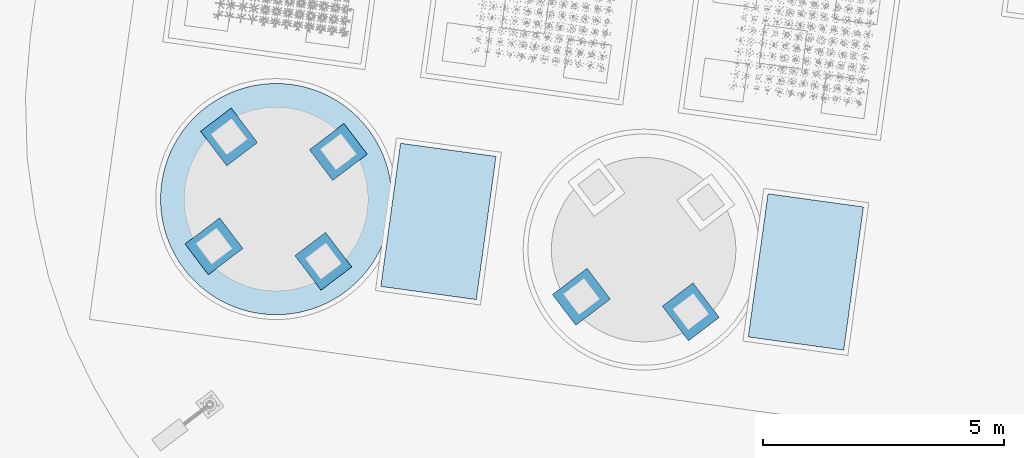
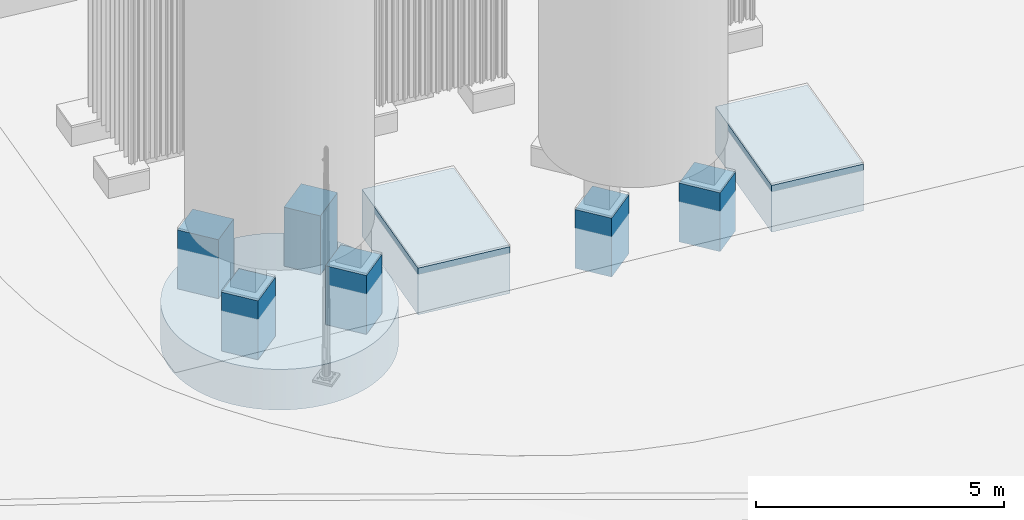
# Not in any storey, part 1 of 75: 9 footings.
"""IFC4 model written with IfcOpenShell, lengths in metres."""

from ifc_helpers import new_model, si_unit, direction, origin, origin_with_axes, place, context, subcontext, project, spatial, triangles, element, save


model = new_model("IFC4")

# Units and contexts
model_context = context("Model", 3, precision=1e-05, world=origin_with_axes(), true_north=direction((0.0, 1.0)))
body_context = subcontext(model_context, "Body", "Model", "MODEL_VIEW")
ifc_project = project(units=[si_unit("AREAUNIT", "SQUARE_METRE"), si_unit("VOLUMEUNIT", "CUBIC_METRE"), si_unit("LENGTHUNIT", "METRE")], contexts=[model_context])

# Site
site_placement = place(None, origin_with_axes())
site = spatial("IfcSite", under=ifc_project, at=site_placement, Name="Parcela industrial Jinhong")

# Footings
footing_1_placement = place(None, origin())
element("IfcFooting", 1, at=footing_1_placement, inside=site, Name="Cimentación del depósito SV1801A · cuerpo de hormigón", PredefinedType="PAD_FOOTING", context=body_context, shape_type="Tessellation", body=[
    triangles([(38.523362, 31.440213, -0.9), (38.669612, 31.804191, -0.9), (38.588997, 31.582892, -0.9), (38.711128, 31.955656, -0.9), (38.69161, 31.879584, -0.9), (38.64516, 31.729558, -0.9), (38.618278, 31.655766, -0.9), (38.319775, 31.104921, -0.9), (38.487079, 31.370561, -0.9), (38.407775, 31.235002, -0.9), (38.448536, 31.302133, -0.9), (38.36484, 31.169241, -0.9), (38.272631, 31.042109, -0.9), (38.223456, 30.980873, -0.9), (38.172304, 30.921279, -0.9), (38.11923, 30.863391, -0.9), (36.2063, 30.120098, -0.9), (37.827079, 30.601634, -0.9), (37.496191, 30.390963, -0.9), (37.949051, 30.700569, -0.9), (37.888875, 30.650103, -0.9), (37.698899, 30.510887, -0.9), (37.763732, 30.555211, -0.9), (37.63265, 30.468708, -0.9), (37.565057, 30.428719, -0.9), (37.426129, 30.35548, -0.9), (37.354941, 30.322309, -0.9), (37.282706, 30.291484, -0.9), (37.209502, 30.26304, -0.9), (37.135407, 30.237005, -0.9), (37.060499, 30.21341, -0.9), (36.984858, 30.192278, -0.9), (36.908568, 30.173632, -0.9), (36.67661, 30.132797, -0.9), (36.831708, 30.157492, -0.9), (36.754361, 30.143875, -0.9), (36.441766, 30.114895, -0.9), (36.598538, 30.124268, -0.9), (36.520229, 30.118299, -0.9), (36.363235, 30.114059, -0.9), (36.284717, 30.115795, -0.9), (36.050095, 30.136386, -0.9), (36.128064, 30.126964, -0.9), (35.895289, 30.162857, -0.9), (35.972475, 30.148355, -0.9), (35.303177, 30.367643, -0.9), (35.667155, 30.221392, -0.9), (35.445856, 30.302007, -0.9), (35.81862, 30.179876, -0.9), (35.742547, 30.199395, -0.9), (35.592522, 30.245845, -0.9), (35.51873, 30.272726, -0.9), (34.967885, 30.571229, -0.9), (35.233525, 30.403926, -0.9), (35.097966, 30.483229, -0.9), (35.165097, 30.442468, -0.9), (35.032205, 30.526164, -0.9), (34.905072, 30.618374, -0.9), (34.843837, 30.667548, -0.9), (34.784242, 30.7187, -0.9), (34.726355, 30.771774, -0.9), (33.983061, 32.684705, -0.9), (34.464597, 31.063925, -0.9), (34.253926, 31.394813, -0.9), (34.563532, 30.941953, -0.9), (34.513066, 31.00213, -0.9), (34.373851, 31.192106, -0.9), (34.418175, 31.127272, -0.9), (34.331672, 31.258354, -0.9), (34.291683, 31.325948, -0.9), (34.218444, 31.464876, -0.9), (34.185272, 31.536063, -0.9), (34.154448, 31.608298, -0.9), (34.126004, 31.681502, -0.9), (34.099969, 31.755598, -0.9), (34.076374, 31.830506, -0.9), (34.055241, 31.906146, -0.9), (34.036596, 31.982436, -0.9), (33.995761, 32.214394, -0.9), (34.020456, 32.059296, -0.9), (34.006839, 32.136643, -0.9), (33.977859, 32.449238, -0.9), (33.987232, 32.292466, -0.9), (33.981262, 32.370775, -0.9), (33.977023, 32.52777, -0.9), (33.978759, 32.606287, -0.9), (33.99935, 32.84091, -0.9), (33.989928, 32.76294, -0.9), (34.025821, 32.995715, -0.9), (34.011319, 32.918529, -0.9), (34.230606, 33.587827, -0.9), (34.084356, 33.223849, -0.9), (34.164971, 33.445148, -0.9), (34.04284, 33.072384, -0.9), (34.062358, 33.148457, -0.9), (34.108808, 33.298482, -0.9), (34.13569, 33.372275, -0.9), (34.434193, 33.92312, -0.9), (34.266889, 33.65748, -0.9), (34.346193, 33.793038, -0.9), (34.305432, 33.725908, -0.9), (34.389128, 33.858799, -0.9), (34.481337, 33.985932, -0.9), (34.530512, 34.047168, -0.9), (34.581664, 34.106762, -0.9), (34.634738, 34.16465, -0.9), (36.547668, 34.907943, -0.9), (34.926889, 34.426407, -0.9), (35.257777, 34.637078, -0.9), (34.804917, 34.327472, -0.9), (34.865093, 34.377938, -0.9), (35.05507, 34.517154, -0.9), (34.990236, 34.472829, -0.9), (35.121318, 34.559333, -0.9), (35.188911, 34.599322, -0.9), (35.32784, 34.672561, -0.9), (35.399027, 34.705732, -0.9), (35.471262, 34.736556, -0.9), (35.544466, 34.765001, -0.9), (35.618562, 34.791035, -0.9), (35.693469, 34.81463, -0.9), (35.76911, 34.835763, -0.9), (35.8454, 34.854409, -0.9), (36.077358, 34.895244, -0.9), (35.92226, 34.870548, -0.9), (35.999607, 34.884165, -0.9), (36.312202, 34.913146, -0.9), (36.15543, 34.903772, -0.9), (36.233739, 34.909742, -0.9), (36.390733, 34.913981, -0.9), (36.469251, 34.912246, -0.9), (36.703873, 34.891654, -0.9), (36.625904, 34.901077, -0.9), (36.858679, 34.865183, -0.9), (36.781493, 34.879686, -0.9), (37.450791, 34.660398, -0.9), (37.086813, 34.806648, -0.9), (37.308112, 34.726033, -0.9), (36.935348, 34.848164, -0.9), (37.011421, 34.828646, -0.9), (37.161446, 34.782196, -0.9), (37.235238, 34.755315, -0.9), (37.786083, 34.456812, -0.9), (37.520443, 34.624115, -0.9), (37.656002, 34.544811, -0.9), (37.588871, 34.585573, -0.9), (37.721763, 34.501876, -0.9), (37.848896, 34.409667, -0.9), (37.910131, 34.360492, -0.9), (37.969726, 34.309341, -0.9), (38.027613, 34.256266, -0.9), (38.770907, 32.343336, -0.9), (38.289371, 33.964115, -0.9), (38.500042, 33.633228, -0.9), (38.190436, 34.086087, -0.9), (38.240902, 34.025911, -0.9), (38.380118, 33.835935, -0.9), (38.335793, 33.900768, -0.9), (38.422296, 33.769686, -0.9), (38.462285, 33.702093, -0.9), (38.535524, 33.563165, -0.9), (38.568696, 33.491977, -0.9), (38.59952, 33.419743, -0.9), (38.627965, 33.346538, -0.9), (38.653999, 33.272443, -0.9), (38.677594, 33.197535, -0.9), (38.698727, 33.121895, -0.9), (38.717372, 33.045604, -0.9), (38.758207, 32.813647, -0.9), (38.733512, 32.968745, -0.9), (38.747129, 32.891397, -0.9), (38.77611, 32.578803, -0.9), (38.766736, 32.735574, -0.9), (38.772706, 32.657265, -0.9), (38.776945, 32.500271, -0.9), (38.775209, 32.421754, -0.9), (38.754618, 32.187131, -0.9), (38.764041, 32.2651, -0.9), (38.728147, 32.032326, -0.9), (38.742649, 32.109512, -0.9), (38.557347, 31.511016, -0.9), (38.06429, 30.80727, -0.9), (38.007543, 30.752976, -0.9), (35.37398, 30.333657, -0.9), (34.670234, 30.826714, -0.9), (34.61594, 30.883461, -0.9), (34.196621, 33.517024, -0.9), (34.689678, 34.220771, -0.9), (34.746425, 34.275064, -0.9), (37.379988, 34.694383, -0.9), (38.083734, 34.201326, -0.9), (38.138028, 34.14458, -0.9), (38.523362, 31.440213, 0.1), (38.669612, 31.804191, 0.1), (38.588997, 31.582892, 0.1), (38.711128, 31.955656, 0.1), (38.69161, 31.879584, 0.1), (38.64516, 31.729558, 0.1), (38.618278, 31.655766, 0.1), (38.319775, 31.104921, 0.1), (38.487079, 31.370561, 0.1), (38.407775, 31.235002, 0.1), (38.448536, 31.302133, 0.1), (38.36484, 31.169241, 0.1), (38.272631, 31.042109, 0.1), (38.223456, 30.980873, 0.1), (38.172304, 30.921279, 0.1), (38.11923, 30.863391, 0.1), (36.2063, 30.120098, 0.1), (37.827079, 30.601634, 0.1), (37.496191, 30.390963, 0.1), (37.949051, 30.700569, 0.1), (37.888875, 30.650103, 0.1), (37.698899, 30.510887, 0.1), (37.763732, 30.555211, 0.1), (37.63265, 30.468708, 0.1), (37.565057, 30.428719, 0.1), (37.426129, 30.35548, 0.1), (37.354941, 30.322309, 0.1), (37.282706, 30.291484, 0.1), (37.209502, 30.26304, 0.1), (37.135407, 30.237005, 0.1), (37.060499, 30.21341, 0.1), (36.984858, 30.192278, 0.1), (36.908568, 30.173632, 0.1), (36.67661, 30.132797, 0.1), (36.831708, 30.157492, 0.1), (36.754361, 30.143875, 0.1), (36.441766, 30.114895, 0.1), (36.598538, 30.124268, 0.1), (36.520229, 30.118299, 0.1), (36.363235, 30.114059, 0.1), (36.284717, 30.115795, 0.1), (36.050095, 30.136386, 0.1), (36.128064, 30.126964, 0.1), (35.895289, 30.162857, 0.1), (35.972475, 30.148355, 0.1), (35.303177, 30.367643, 0.1), (35.667155, 30.221392, 0.1), (35.445856, 30.302007, 0.1), (35.81862, 30.179876, 0.1), (35.742547, 30.199395, 0.1), (35.592522, 30.245845, 0.1), (35.51873, 30.272726, 0.1), (34.967885, 30.571229, 0.1), (35.233525, 30.403926, 0.1), (35.097966, 30.483229, 0.1), (35.165097, 30.442468, 0.1), (35.032205, 30.526164, 0.1), (34.905072, 30.618374, 0.1), (34.843837, 30.667548, 0.1), (34.784242, 30.7187, 0.1), (34.726355, 30.771774, 0.1), (33.983061, 32.684705, 0.1), (34.464597, 31.063925, 0.1), (34.253926, 31.394813, 0.1), (34.563532, 30.941953, 0.1), (34.513066, 31.00213, 0.1), (34.373851, 31.192106, 0.1), (34.418175, 31.127272, 0.1), (34.331672, 31.258354, 0.1), (34.291683, 31.325948, 0.1), (34.218444, 31.464876, 0.1), (34.185272, 31.536063, 0.1), (34.154448, 31.608298, 0.1), (34.126004, 31.681502, 0.1), (34.099969, 31.755598, 0.1), (34.076374, 31.830506, 0.1), (34.055241, 31.906146, 0.1), (34.036596, 31.982436, 0.1), (33.995761, 32.214394, 0.1), (34.020456, 32.059296, 0.1), (34.006839, 32.136643, 0.1), (33.977859, 32.449238, 0.1), (33.987232, 32.292466, 0.1), (33.981262, 32.370775, 0.1), (33.977023, 32.52777, 0.1), (33.978759, 32.606287, 0.1), (33.99935, 32.84091, 0.1), (33.989928, 32.76294, 0.1), (34.025821, 32.995715, 0.1), (34.011319, 32.918529, 0.1), (34.230606, 33.587827, 0.1), (34.084356, 33.223849, 0.1), (34.164971, 33.445148, 0.1), (34.04284, 33.072384, 0.1), (34.062358, 33.148457, 0.1), (34.108808, 33.298482, 0.1), (34.13569, 33.372275, 0.1), (34.434193, 33.92312, 0.1), (34.266889, 33.65748, 0.1), (34.346193, 33.793038, 0.1), (34.305432, 33.725908, 0.1), (34.389128, 33.858799, 0.1), (34.481337, 33.985932, 0.1), (34.530512, 34.047168, 0.1), (34.581664, 34.106762, 0.1), (34.634738, 34.16465, 0.1), (36.547668, 34.907943, 0.1), (34.926889, 34.426407, 0.1), (35.257777, 34.637078, 0.1), (34.804917, 34.327472, 0.1), (34.865093, 34.377938, 0.1), (35.05507, 34.517154, 0.1), (34.990236, 34.472829, 0.1), (35.121318, 34.559333, 0.1), (35.188911, 34.599322, 0.1), (35.32784, 34.672561, 0.1), (35.399027, 34.705732, 0.1), (35.471262, 34.736556, 0.1), (35.544466, 34.765001, 0.1), (35.618562, 34.791035, 0.1), (35.693469, 34.81463, 0.1), (35.76911, 34.835763, 0.1), (35.8454, 34.854409, 0.1), (36.077358, 34.895244, 0.1), (35.92226, 34.870548, 0.1), (35.999607, 34.884165, 0.1), (36.312202, 34.913146, 0.1), (36.15543, 34.903772, 0.1), (36.233739, 34.909742, 0.1), (36.390733, 34.913981, 0.1), (36.469251, 34.912246, 0.1), (36.703873, 34.891654, 0.1), (36.625904, 34.901077, 0.1), (36.858679, 34.865183, 0.1), (36.781493, 34.879686, 0.1), (37.450791, 34.660398, 0.1), (37.086813, 34.806648, 0.1), (37.308112, 34.726033, 0.1), (36.935348, 34.848164, 0.1), (37.011421, 34.828646, 0.1), (37.161446, 34.782196, 0.1), (37.235238, 34.755315, 0.1), (37.786083, 34.456812, 0.1), (37.520443, 34.624115, 0.1), (37.656002, 34.544811, 0.1), (37.588871, 34.585573, 0.1), (37.721763, 34.501876, 0.1), (37.848896, 34.409667, 0.1), (37.910131, 34.360492, 0.1), (37.969726, 34.309341, 0.1), (38.027613, 34.256266, 0.1), (38.770907, 32.343336, 0.1), (38.289371, 33.964115, 0.1), (38.500042, 33.633228, 0.1), (38.190436, 34.086087, 0.1), (38.240902, 34.025911, 0.1), (38.380118, 33.835935, 0.1), (38.335793, 33.900768, 0.1), (38.422296, 33.769686, 0.1), (38.462285, 33.702093, 0.1), (38.535524, 33.563165, 0.1), (38.568696, 33.491977, 0.1), (38.59952, 33.419743, 0.1), (38.627965, 33.346538, 0.1), (38.653999, 33.272443, 0.1), (38.677594, 33.197535, 0.1), (38.698727, 33.121895, 0.1), (38.717372, 33.045604, 0.1), (38.758207, 32.813647, 0.1), (38.733512, 32.968745, 0.1), (38.747129, 32.891397, 0.1), (38.77611, 32.578803, 0.1), (38.766736, 32.735574, 0.1), (38.772706, 32.657265, 0.1), (38.776945, 32.500271, 0.1), (38.775209, 32.421754, 0.1), (38.754618, 32.187131, 0.1), (38.764041, 32.2651, 0.1), (38.728147, 32.032326, 0.1), (38.742649, 32.109512, 0.1), (38.557347, 31.511016, 0.1), (38.06429, 30.80727, 0.1), (38.007543, 30.752976, 0.1), (35.37398, 30.333657, 0.1), (34.670234, 30.826714, 0.1), (34.61594, 30.883461, 0.1), (34.196621, 33.517024, 0.1), (34.689678, 34.220771, 0.1), (34.746425, 34.275064, 0.1), (37.379988, 34.694383, 0.1), (38.083734, 34.201326, 0.1), (38.138028, 34.14458, 0.1)], [[1, 2, 3], [4, 5, 2], [2, 6, 7], [2, 1, 4], [8, 9, 10], [9, 11, 10], [10, 12, 8], [8, 13, 14], [14, 15, 16], [17, 18, 19], [18, 20, 21], [22, 18, 23], [18, 22, 24], [18, 25, 19], [19, 26, 27], [27, 28, 29], [29, 30, 31], [31, 32, 33], [34, 35, 36], [37, 34, 38], [38, 39, 37], [37, 40, 41], [42, 17, 43], [44, 42, 45], [46, 47, 48], [49, 50, 47], [47, 51, 52], [47, 46, 49], [53, 54, 55], [54, 56, 55], [55, 57, 53], [53, 58, 59], [59, 60, 61], [62, 63, 64], [63, 65, 66], [67, 63, 68], [63, 67, 69], [63, 70, 64], [64, 71, 72], [72, 73, 74], [74, 75, 76], [76, 77, 78], [79, 80, 81], [82, 79, 83], [83, 84, 82], [82, 85, 86], [87, 62, 88], [89, 87, 90], [91, 92, 93], [94, 95, 92], [92, 96, 97], [92, 91, 94], [98, 99, 100], [99, 101, 100], [100, 102, 98], [98, 103, 104], [104, 105, 106], [107, 108, 109], [108, 110, 111], [112, 108, 113], [108, 112, 114], [108, 115, 109], [109, 116, 117], [117, 118, 119], [119, 120, 121], [121, 122, 123], [124, 125, 126], [127, 124, 128], [128, 129, 127], [127, 130, 131], [132, 107, 133], [134, 132, 135], [136, 137, 138], [139, 140, 137], [137, 141, 142], [137, 136, 139], [143, 144, 145], [144, 146, 145], [145, 147, 143], [143, 148, 149], [149, 150, 151], [152, 153, 154], [153, 155, 156], [157, 153, 158], [153, 157, 159], [153, 160, 154], [154, 161, 162], [162, 163, 164], [164, 165, 166], [166, 167, 168], [169, 170, 171], [172, 169, 173], [173, 174, 172], [172, 175, 176], [177, 152, 178], [179, 177, 180], [1, 3, 181], [3, 2, 7], [16, 8, 14], [8, 16, 9], [18, 16, 182], [20, 18, 183], [18, 24, 25], [19, 27, 29], [29, 31, 33], [37, 35, 34], [35, 37, 41], [42, 44, 17], [46, 48, 184], [48, 47, 52], [61, 53, 59], [53, 61, 54], [63, 61, 185], [65, 63, 186], [63, 69, 70], [64, 72, 74], [74, 76, 78], [82, 80, 79], [80, 82, 86], [87, 89, 62], [91, 93, 187], [93, 92, 97], [106, 98, 104], [98, 106, 99], [108, 106, 188], [110, 108, 189], [108, 114, 115], [109, 117, 119], [119, 121, 123], [127, 125, 124], [125, 127, 131], [132, 134, 107], [136, 138, 190], [138, 137, 142], [151, 143, 149], [143, 151, 144], [153, 151, 191], [155, 153, 192], [153, 159, 160], [154, 162, 164], [164, 166, 168], [172, 170, 169], [170, 172, 176], [177, 179, 152], [9, 4, 1], [4, 9, 179], [18, 182, 183], [33, 19, 29], [41, 33, 35], [33, 41, 17], [54, 49, 46], [49, 54, 44], [63, 185, 186], [78, 64, 74], [86, 78, 80], [78, 86, 62], [99, 94, 91], [94, 99, 89], [108, 188, 189], [107, 109, 123], [131, 123, 125], [123, 131, 107], [144, 139, 136], [139, 144, 134], [153, 191, 192], [168, 154, 164], [176, 168, 170], [168, 176, 152], [16, 179, 9], [18, 179, 16], [63, 18, 44], [63, 153, 18], [108, 63, 89], [64, 78, 62], [106, 89, 99], [108, 89, 106], [108, 153, 63], [151, 134, 144], [153, 134, 151], [154, 168, 152], [44, 18, 17], [17, 19, 33], [63, 62, 89], [107, 153, 108], [153, 107, 134], [153, 179, 18], [61, 44, 54], [123, 109, 119], [179, 153, 152], [63, 44, 61], [195, 194, 193], [194, 197, 196], [199, 198, 194], [196, 193, 194], [202, 201, 200], [202, 203, 201], [200, 204, 202], [206, 205, 200], [208, 207, 206], [211, 210, 209], [213, 212, 210], [215, 210, 214], [216, 214, 210], [211, 217, 210], [219, 218, 211], [221, 220, 219], [223, 222, 221], [225, 224, 223], [228, 227, 226], [230, 226, 229], [229, 231, 230], [233, 232, 229], [235, 209, 234], [237, 234, 236], [240, 239, 238], [239, 242, 241], [244, 243, 239], [241, 238, 239], [247, 246, 245], [247, 248, 246], [245, 249, 247], [251, 250, 245], [253, 252, 251], [256, 255, 254], [258, 257, 255], [260, 255, 259], [261, 259, 255], [256, 262, 255], [264, 263, 256], [266, 265, 264], [268, 267, 266], [270, 269, 268], [273, 272, 271], [275, 271, 274], [274, 276, 275], [278, 277, 274], [280, 254, 279], [282, 279, 281], [285, 284, 283], [284, 287, 286], [289, 288, 284], [286, 283, 284], [292, 291, 290], [292, 293, 291], [290, 294, 292], [296, 295, 290], [298, 297, 296], [301, 300, 299], [303, 302, 300], [305, 300, 304], [306, 304, 300], [301, 307, 300], [309, 308, 301], [311, 310, 309], [313, 312, 311], [315, 314, 313], [318, 317, 316], [320, 316, 319], [319, 321, 320], [323, 322, 319], [325, 299, 324], [327, 324, 326], [330, 329, 328], [329, 332, 331], [334, 333, 329], [331, 328, 329], [337, 336, 335], [337, 338, 336], [335, 339, 337], [341, 340, 335], [343, 342, 341], [346, 345, 344], [348, 347, 345], [350, 345, 349], [351, 349, 345], [346, 352, 345], [354, 353, 346], [356, 355, 354], [358, 357, 356], [360, 359, 358], [363, 362, 361], [365, 361, 364], [364, 366, 365], [368, 367, 364], [370, 344, 369], [372, 369, 371], [373, 195, 193], [199, 194, 195], [206, 200, 208], [201, 208, 200], [374, 208, 210], [375, 210, 212], [217, 216, 210], [221, 219, 211], [225, 223, 221], [226, 227, 229], [233, 229, 227], [209, 236, 234], [376, 240, 238], [244, 239, 240], [251, 245, 253], [246, 253, 245], [377, 253, 255], [378, 255, 257], [262, 261, 255], [266, 264, 256], [270, 268, 266], [271, 272, 274], [278, 274, 272], [254, 281, 279], [379, 285, 283], [289, 284, 285], [296, 290, 298], [291, 298, 290], [380, 298, 300], [381, 300, 302], [307, 306, 300], [311, 309, 301], [315, 313, 311], [316, 317, 319], [323, 319, 317], [299, 326, 324], [382, 330, 328], [334, 329, 330], [341, 335, 343], [336, 343, 335], [383, 343, 345], [384, 345, 347], [352, 351, 345], [356, 354, 346], [360, 358, 356], [361, 362, 364], [368, 364, 362], [344, 371, 369], [193, 196, 201], [371, 201, 196], [375, 374, 210], [221, 211, 225], [227, 225, 233], [209, 233, 225], [238, 241, 246], [236, 246, 241], [378, 377, 255], [266, 256, 270], [272, 270, 278], [254, 278, 270], [283, 286, 291], [281, 291, 286], [381, 380, 300], [315, 301, 299], [317, 315, 323], [299, 323, 315], [328, 331, 336], [326, 336, 331], [384, 383, 345], [356, 346, 360], [362, 360, 368], [344, 368, 360], [201, 371, 208], [208, 371, 210], [236, 210, 255], [210, 345, 255], [281, 255, 300], [254, 270, 256], [291, 281, 298], [298, 281, 300], [255, 345, 300], [336, 326, 343], [343, 326, 345], [344, 360, 346], [209, 210, 236], [225, 211, 209], [281, 254, 255], [300, 345, 299], [326, 299, 345], [210, 371, 345], [246, 236, 253], [311, 301, 315], [344, 345, 371], [253, 236, 255], [197, 194, 5], [5, 194, 2], [196, 197, 4], [4, 197, 5], [194, 198, 2], [2, 198, 6], [199, 195, 7], [7, 195, 3], [198, 199, 6], [6, 199, 7], [193, 201, 1], [1, 201, 9], [201, 203, 9], [9, 203, 11], [203, 202, 11], [11, 202, 10], [204, 200, 12], [12, 200, 8], [202, 204, 10], [10, 204, 12], [200, 205, 8], [8, 205, 13], [205, 206, 13], [13, 206, 14], [206, 207, 14], [14, 207, 15], [207, 208, 15], [15, 208, 16], [213, 210, 21], [21, 210, 18], [212, 213, 20], [20, 213, 21], [210, 215, 18], [18, 215, 23], [215, 214, 23], [23, 214, 22], [214, 216, 22], [22, 216, 24], [217, 211, 25], [25, 211, 19], [216, 217, 24], [24, 217, 25], [211, 218, 19], [19, 218, 26], [218, 219, 26], [26, 219, 27], [219, 220, 27], [27, 220, 28], [220, 221, 28], [28, 221, 29], [221, 222, 29], [29, 222, 30], [222, 223, 30], [30, 223, 31], [223, 224, 31], [31, 224, 32], [224, 225, 32], [32, 225, 33], [225, 227, 33], [33, 227, 35], [228, 226, 36], [36, 226, 34], [227, 228, 35], [35, 228, 36], [226, 230, 34], [34, 230, 38], [231, 229, 39], [39, 229, 37], [230, 231, 38], [38, 231, 39], [229, 232, 37], [37, 232, 40], [233, 209, 41], [41, 209, 17], [232, 233, 40], [40, 233, 41], [209, 235, 17], [17, 235, 43], [235, 234, 43], [43, 234, 42], [234, 237, 42], [42, 237, 45], [237, 236, 45], [45, 236, 44], [236, 241, 44], [44, 241, 49], [242, 239, 50], [50, 239, 47], [241, 242, 49], [49, 242, 50], [239, 243, 47], [47, 243, 51], [244, 240, 52], [52, 240, 48], [243, 244, 51], [51, 244, 52], [238, 246, 46], [46, 246, 54], [246, 248, 54], [54, 248, 56], [248, 247, 56], [56, 247, 55], [249, 245, 57], [57, 245, 53], [247, 249, 55], [55, 249, 57], [245, 250, 53], [53, 250, 58], [250, 251, 58], [58, 251, 59], [251, 252, 59], [59, 252, 60], [252, 253, 60], [60, 253, 61], [258, 255, 66], [66, 255, 63], [257, 258, 65], [65, 258, 66], [255, 260, 63], [63, 260, 68], [260, 259, 68], [68, 259, 67], [259, 261, 67], [67, 261, 69], [262, 256, 70], [70, 256, 64], [261, 262, 69], [69, 262, 70], [256, 263, 64], [64, 263, 71], [263, 264, 71], [71, 264, 72], [264, 265, 72], [72, 265, 73], [265, 266, 73], [73, 266, 74], [266, 267, 74], [74, 267, 75], [267, 268, 75], [75, 268, 76], [268, 269, 76], [76, 269, 77], [269, 270, 77], [77, 270, 78], [270, 272, 78], [78, 272, 80], [273, 271, 81], [81, 271, 79], [272, 273, 80], [80, 273, 81], [271, 275, 79], [79, 275, 83], [276, 274, 84], [84, 274, 82], [275, 276, 83], [83, 276, 84], [274, 277, 82], [82, 277, 85], [278, 254, 86], [86, 254, 62], [277, 278, 85], [85, 278, 86], [254, 280, 62], [62, 280, 88], [280, 279, 88], [88, 279, 87], [279, 282, 87], [87, 282, 90], [282, 281, 90], [90, 281, 89], [281, 286, 89], [89, 286, 94], [287, 284, 95], [95, 284, 92], [286, 287, 94], [94, 287, 95], [284, 288, 92], [92, 288, 96], [289, 285, 97], [97, 285, 93], [288, 289, 96], [96, 289, 97], [283, 291, 91], [91, 291, 99], [291, 293, 99], [99, 293, 101], [293, 292, 101], [101, 292, 100], [294, 290, 102], [102, 290, 98], [292, 294, 100], [100, 294, 102], [290, 295, 98], [98, 295, 103], [295, 296, 103], [103, 296, 104], [296, 297, 104], [104, 297, 105], [297, 298, 105], [105, 298, 106], [303, 300, 111], [111, 300, 108], [302, 303, 110], [110, 303, 111], [300, 305, 108], [108, 305, 113], [305, 304, 113], [113, 304, 112], [304, 306, 112], [112, 306, 114], [307, 301, 115], [115, 301, 109], [306, 307, 114], [114, 307, 115], [301, 308, 109], [109, 308, 116], [308, 309, 116], [116, 309, 117], [309, 310, 117], [117, 310, 118], [310, 311, 118], [118, 311, 119], [311, 312, 119], [119, 312, 120], [312, 313, 120], [120, 313, 121], [313, 314, 121], [121, 314, 122], [314, 315, 122], [122, 315, 123], [315, 317, 123], [123, 317, 125], [318, 316, 126], [126, 316, 124], [317, 318, 125], [125, 318, 126], [316, 320, 124], [124, 320, 128], [321, 319, 129], [129, 319, 127], [320, 321, 128], [128, 321, 129], [319, 322, 127], [127, 322, 130], [323, 299, 131], [131, 299, 107], [322, 323, 130], [130, 323, 131], [299, 325, 107], [107, 325, 133], [325, 324, 133], [133, 324, 132], [324, 327, 132], [132, 327, 135], [327, 326, 135], [135, 326, 134], [326, 331, 134], [134, 331, 139], [332, 329, 140], [140, 329, 137], [331, 332, 139], [139, 332, 140], [329, 333, 137], [137, 333, 141], [334, 330, 142], [142, 330, 138], [333, 334, 141], [141, 334, 142], [328, 336, 136], [136, 336, 144], [336, 338, 144], [144, 338, 146], [338, 337, 146], [146, 337, 145], [339, 335, 147], [147, 335, 143], [337, 339, 145], [145, 339, 147], [335, 340, 143], [143, 340, 148], [340, 341, 148], [148, 341, 149], [341, 342, 149], [149, 342, 150], [342, 343, 150], [150, 343, 151], [348, 345, 156], [156, 345, 153], [347, 348, 155], [155, 348, 156], [345, 350, 153], [153, 350, 158], [350, 349, 158], [158, 349, 157], [349, 351, 157], [157, 351, 159], [352, 346, 160], [160, 346, 154], [351, 352, 159], [159, 352, 160], [346, 353, 154], [154, 353, 161], [353, 354, 161], [161, 354, 162], [354, 355, 162], [162, 355, 163], [355, 356, 163], [163, 356, 164], [356, 357, 164], [164, 357, 165], [357, 358, 165], [165, 358, 166], [358, 359, 166], [166, 359, 167], [359, 360, 167], [167, 360, 168], [360, 362, 168], [168, 362, 170], [363, 361, 171], [171, 361, 169], [362, 363, 170], [170, 363, 171], [361, 365, 169], [169, 365, 173], [366, 364, 174], [174, 364, 172], [365, 366, 173], [173, 366, 174], [364, 367, 172], [172, 367, 175], [368, 344, 176], [176, 344, 152], [367, 368, 175], [175, 368, 176], [344, 370, 152], [152, 370, 178], [370, 369, 178], [178, 369, 177], [371, 196, 179], [179, 196, 4], [369, 372, 177], [177, 372, 180], [372, 371, 180], [180, 371, 179], [373, 193, 181], [181, 193, 1], [195, 373, 3], [3, 373, 181], [208, 374, 16], [16, 374, 182], [375, 212, 183], [183, 212, 20], [374, 375, 182], [182, 375, 183], [376, 238, 184], [184, 238, 46], [240, 376, 48], [48, 376, 184], [253, 377, 61], [61, 377, 185], [378, 257, 186], [186, 257, 65], [377, 378, 185], [185, 378, 186], [379, 283, 187], [187, 283, 91], [285, 379, 93], [93, 379, 187], [298, 380, 106], [106, 380, 188], [381, 302, 189], [189, 302, 110], [380, 381, 188], [188, 381, 189], [382, 328, 190], [190, 328, 136], [330, 382, 138], [138, 382, 190], [343, 383, 151], [151, 383, 191], [384, 347, 192], [192, 347, 155], [383, 384, 191], [191, 384, 192]], closed=True),
])
footing_2_placement = place(None, origin())
element("IfcFooting", 2, at=footing_2_placement, inside=site, Name="Cimentación del depósito SV1801A · pedestal DZ7 1", PredefinedType="PAD_FOOTING", context=body_context, shape_type="Tessellation", body=[
    triangles([(37.550955, 32.90221, 0.1), (37.784735, 34.083459, 0.1), (38.2681, 33.445996, 0.1), (37.06759, 33.539673, 0.1), (37.550955, 32.90221, 1.55), (37.784735, 34.083459, 1.55), (38.2681, 33.445996, 1.55), (37.06759, 33.539673, 1.55)], [[1, 2, 3], [2, 1, 4], [7, 6, 5], [8, 5, 6], [7, 5, 3], [3, 5, 1], [6, 7, 2], [2, 7, 3], [5, 8, 1], [1, 8, 4], [8, 6, 4], [4, 6, 2]], closed=True),
])
footing_3_placement = place(None, origin())
element("IfcFooting", 3, at=footing_3_placement, inside=site, Name="Cimentación del depósito SV1801A · pedestal DZ7 2", PredefinedType="PAD_FOOTING", context=body_context, shape_type="Tessellation", body=[
    triangles([(35.351331, 33.204626, 0.1), (34.807545, 33.921771, 0.1), (35.445008, 34.405137, 0.1), (35.988794, 33.687992, 0.1), (35.351331, 33.204626, 1.55), (34.807545, 33.921771, 1.55), (35.445008, 34.405137, 1.55), (35.988794, 33.687992, 1.55)], [[1, 2, 3], [3, 4, 1], [7, 6, 5], [5, 8, 7], [5, 6, 1], [1, 6, 2], [6, 7, 2], [2, 7, 3], [8, 5, 4], [4, 5, 1], [7, 8, 3], [3, 8, 4]], closed=True),
])
footing_4_placement = place(None, origin())
element("IfcFooting", 4, at=footing_4_placement, inside=site, Name="Cimentación del depósito SV1801A · pedestal DZ7 3", PredefinedType="PAD_FOOTING", context=body_context, shape_type="Tessellation", body=[
    triangles([(37.30896, 30.622904, 0.1), (37.402637, 31.823414, 0.1), (37.946423, 31.106269, 0.1), (36.765174, 31.340049, 0.1), (37.30896, 30.622904, 1.55), (37.402637, 31.823414, 1.55), (37.946423, 31.106269, 1.55), (36.765174, 31.340049, 1.55)], [[1, 2, 3], [2, 1, 4], [7, 6, 5], [8, 5, 6], [7, 5, 3], [3, 5, 1], [6, 7, 2], [2, 7, 3], [5, 8, 1], [1, 8, 4], [8, 6, 4], [4, 6, 2]], closed=True),
])
footing_5_placement = place(None, origin())
element("IfcFooting", 5, at=footing_5_placement, inside=site, Name="Cimentación del depósito SV1801A · pedestal DZ7 4", PredefinedType="PAD_FOOTING", context=body_context, shape_type="Tessellation", body=[
    triangles([(35.203013, 32.12583, 0.1), (34.969233, 30.944582, 0.1), (34.485868, 31.582044, 0.1), (35.686378, 31.488367, 0.1), (35.203013, 32.12583, 1.55), (34.969233, 30.944582, 1.55), (34.485868, 31.582044, 1.55), (35.686378, 31.488367, 1.55)], [[1, 2, 3], [2, 1, 4], [7, 6, 5], [8, 5, 6], [7, 5, 3], [3, 5, 1], [6, 7, 2], [2, 7, 3], [5, 8, 1], [1, 8, 4], [8, 6, 4], [4, 6, 2]], closed=True),
])
footing_6_placement = place(None, origin())
element("IfcFooting", 6, at=footing_6_placement, inside=site, Name="Cimentación del depósito SV1801B · pedestal DZ7 3", PredefinedType="PAD_FOOTING", context=body_context, shape_type="Tessellation", body=[
    triangles([(45.030879, 30.774644, 0.1), (45.574665, 30.057499, 0.1), (44.937202, 29.574134, 0.1), (44.393416, 30.291279, 0.1), (45.030879, 30.774644, 1.55), (45.574665, 30.057499, 1.55), (44.937202, 29.574134, 1.55), (44.393416, 30.291279, 1.55)], [[1, 2, 3], [3, 4, 1], [7, 6, 5], [5, 8, 7], [5, 6, 1], [1, 6, 2], [6, 7, 2], [2, 7, 3], [8, 5, 4], [4, 5, 1], [7, 8, 3], [3, 8, 4]], closed=True),
])
footing_7_placement = place(None, origin())
element("IfcFooting", 7, at=footing_7_placement, inside=site, Name="Cimentación del depósito SV1801B · pedestal DZ7 4", PredefinedType="PAD_FOOTING", context=body_context, shape_type="Tessellation", body=[
    triangles([(42.597476, 29.895811, 0.1), (42.11411, 30.533274, 0.1), (42.831255, 31.07706, 0.1), (43.314621, 30.439597, 0.1), (42.597476, 29.895811, 1.55), (42.11411, 30.533274, 1.55), (42.831255, 31.07706, 1.55), (43.314621, 30.439597, 1.55)], [[1, 2, 3], [3, 4, 1], [7, 6, 5], [5, 8, 7], [5, 6, 1], [1, 6, 2], [6, 7, 2], [2, 7, 3], [8, 5, 4], [4, 5, 1], [7, 8, 3], [3, 8, 4]], closed=True),
])
footing_8_placement = place(None, origin())
element("IfcFooting", 8, at=footing_8_placement, inside=site, Name="Base de autopresurización A · cuerpo de hormigón", PredefinedType="PAD_FOOTING", context=body_context, shape_type="Tessellation", body=[
    triangles([(40.940286, 33.400744, 0.1), (40.531674, 30.428702, 0.1), (38.550312, 30.70111, 0.1), (38.958924, 33.673152, 0.1), (40.940286, 33.400744, 1.25), (40.531674, 30.428702, 1.25), (38.550312, 30.70111, 1.25), (38.958924, 33.673152, 1.25)], [[1, 2, 3], [3, 4, 1], [7, 6, 5], [5, 8, 7], [5, 6, 1], [1, 6, 2], [6, 7, 2], [2, 7, 3], [8, 5, 4], [4, 5, 1], [7, 8, 3], [3, 8, 4]], closed=True),
])
footing_9_placement = place(None, origin())
element("IfcFooting", 9, at=footing_9_placement, inside=site, Name="Base de autopresurización B · cuerpo de hormigón", PredefinedType="PAD_FOOTING", context=body_context, shape_type="Tessellation", body=[
    triangles([(48.568528, 32.351974, 0.1), (48.159916, 29.379932, 0.1), (46.178554, 29.652339, 0.1), (46.587166, 32.624382, 0.1), (48.568528, 32.351974, 1.25), (48.159916, 29.379932, 1.25), (46.178554, 29.652339, 1.25), (46.587166, 32.624382, 1.25)], [[1, 2, 3], [3, 4, 1], [7, 6, 5], [5, 8, 7], [5, 6, 1], [1, 6, 2], [6, 7, 2], [2, 7, 3], [8, 5, 4], [4, 5, 1], [7, 8, 3], [3, 8, 4]], closed=True),
])

save(model, "model.ifc")
